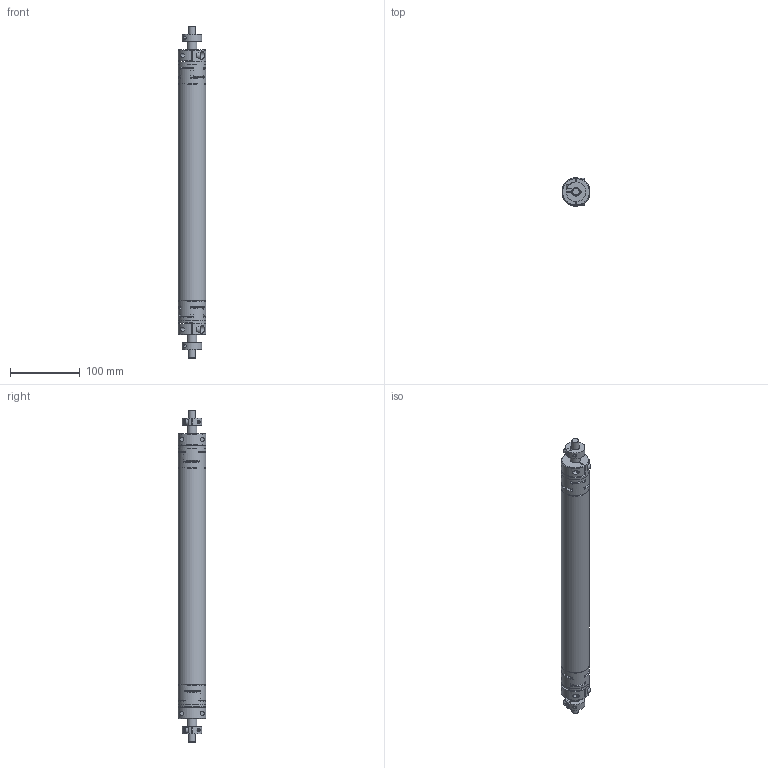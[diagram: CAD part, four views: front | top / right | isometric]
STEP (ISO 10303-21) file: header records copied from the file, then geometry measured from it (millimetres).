
FILE_DESCRIPTION(/* description */ ('Dummy'),/* implementation_level */ '2;1');
FILE_NAME(/* name */ 'D:\InventorWorkspace2019\CAD\_lokale konstruktionen\VerbWelleHLR070\0232.910-0500.stp',/* time_stamp */ '2020-04-14T15:59:07+02:00',/* author */ ('AR64535'),/* organization */ (''),/* preprocessor_version */ 'ST-DEVELOPER v17.2',/* originating_system */ 'Autodesk Inventor 2019',/* authorisation */ '');
FILE_SCHEMA (('AUTOMOTIVE_DESIGN { 1 0 10303 214 3 1 1 }'));
Length unit declared in the file: millimetre
Products named in the file (8): 0241910-XXXX_HLR070; 0241.910-XXXX; ROTEX GS19 ZR3_Klemmnabe D14; ROTEX GS19 ZR3_Rohr; 0232.007-02; 0231.029; 0231.012-01; 130-302319
Assembly tree (11 placements, depth 3):
  0241910-XXXX_HLR070
    0241.910-XXXX
      ROTEX GS19 ZR3_Klemmnabe D14  x2
      ROTEX GS19 ZR3_Rohr
    0232.007-02
      0231.029  x2
      0231.012-01  x2
      130-302319  x2
Bounding box: 40 x 40 x 475 mm (x, y, z)
Volume: 220715.4 mm3; surface area: 119492.1 mm2
Topology: 9 solids, 9 shells, 430 faces, 1260 edges, 858 vertices
Faces by surface type: cylinder 178, plane 156, cone 92, torus 4
Full cylindrical faces by diameter (mm): 3 x12, 4.134 x2, 5 x2, 5.3 x2, 6 x4, 6.6 x8, 8.5 x2, 10 x6, 14 x4, 18 x4, 22 x2, 34 x1, 39.4 x2, 40 x3
Entity records: 8244 total; most frequent: CARTESIAN_POINT 2097, ORIENTED_EDGE 1268, DIRECTION 1244, EDGE_CURVE 634, AXIS2_PLACEMENT_3D 516, VERTEX_POINT 432, CIRCLE 279, EDGE_LOOP 256
